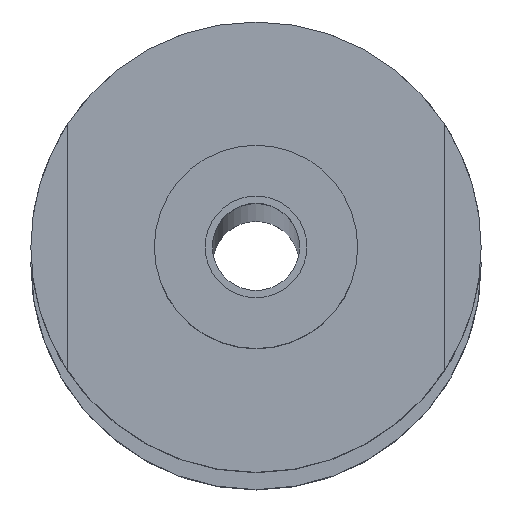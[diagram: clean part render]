
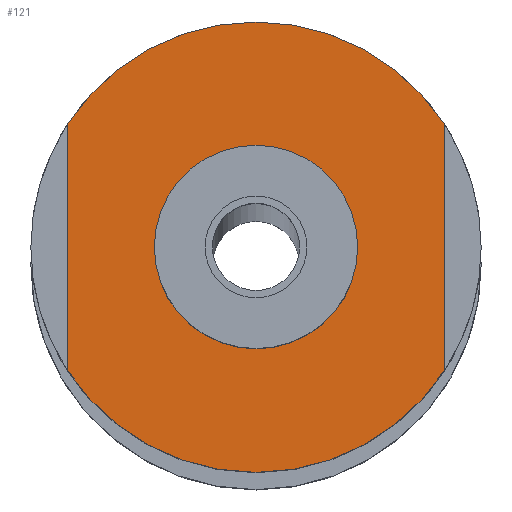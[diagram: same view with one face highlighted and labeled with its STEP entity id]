
A CAD part, top view. The second image highlights one B-rep face of the part: STEP entity #121.
In plain terms, the highlighted planar face has unit normal (0, 0, 1).
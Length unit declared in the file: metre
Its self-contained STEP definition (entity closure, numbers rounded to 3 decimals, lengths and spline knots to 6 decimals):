
#121=ADVANCED_FACE('37:1511',(#238,#239),#240,.T.);
#238=FACE_OUTER_BOUND('',#364,.T.);
#239=FACE_BOUND('',#365,.T.);
#240=PLANE('',#366);
#364=EDGE_LOOP('',(#596,#597,#598,#599,#600,#601));
#365=EDGE_LOOP('',(#602,#603));
#366=AXIS2_PLACEMENT_3D('',#604,#605,#606);
#596=ORIENTED_EDGE('',*,*,#761,.F.);
#597=ORIENTED_EDGE('',*,*,#760,.F.);
#598=ORIENTED_EDGE('',*,*,#756,.F.);
#599=ORIENTED_EDGE('',*,*,#688,.F.);
#600=ORIENTED_EDGE('',*,*,#687,.F.);
#601=ORIENTED_EDGE('',*,*,#751,.T.);
#602=ORIENTED_EDGE('',*,*,#749,.F.);
#603=ORIENTED_EDGE('',*,*,#693,.F.);
#604=CARTESIAN_POINT('',(0.0,0.0,3.055));
#605=DIRECTION('',(0.0,0.0,1.0));
#606=DIRECTION('',(1.0,0.0,0.0));
#687=EDGE_CURVE('37:1561',#812,#814,#815,.F.);
#688=EDGE_CURVE('37:1552',#814,#816,#817,.F.);
#693=EDGE_CURVE('',#822,#825,#826,.T.);
#749=EDGE_CURVE('37:1539',#825,#822,#907,.T.);
#751=EDGE_CURVE('37:3142',#812,#909,#910,.T.);
#756=EDGE_CURVE('37:2641',#816,#917,#918,.F.);
#760=EDGE_CURVE('37:1558',#917,#922,#923,.F.);
#761=EDGE_CURVE('37:1549',#922,#909,#924,.F.);
#812=VERTEX_POINT('',#1001);
#814=VERTEX_POINT('',#1004);
#815=CIRCLE('',#1005,0.0155);
#816=VERTEX_POINT('',#1006);
#817=CIRCLE('',#1007,0.0155);
#822=VERTEX_POINT('',#1013);
#825=VERTEX_POINT('',#1017);
#826=CIRCLE('',#1018,0.007);
#907=CIRCLE('',#1116,0.007);
#909=VERTEX_POINT('',#1118);
#910=LINE('',#1119,#1120);
#917=VERTEX_POINT('',#1130);
#918=LINE('',#1131,#1132);
#922=VERTEX_POINT('',#1137);
#923=CIRCLE('',#1138,0.0155);
#924=CIRCLE('',#1139,0.0155);
#1001=CARTESIAN_POINT('',(-0.013092,0.008536,3.055));
#1004=CARTESIAN_POINT('',(-0.000092,0.015595,3.055));
#1005=AXIS2_PLACEMENT_3D('',#1221,#1222,#1223);
#1006=CARTESIAN_POINT('',(0.012908,0.008536,3.055));
#1007=AXIS2_PLACEMENT_3D('',#1224,#1225,#1226);
#1013=CARTESIAN_POINT('',(0.006908,0.000095,3.055));
#1017=CARTESIAN_POINT('',(-0.007092,0.000095,3.055));
#1018=AXIS2_PLACEMENT_3D('',#1232,#1233,#1234);
#1116=AXIS2_PLACEMENT_3D('',#1318,#1319,#1320);
#1118=CARTESIAN_POINT('',(-0.013092,-0.008346,3.055));
#1119=CARTESIAN_POINT('',(-0.013092,0.000048,3.055));
#1120=VECTOR('',#1321,1.0);
#1130=CARTESIAN_POINT('',(0.012908,-0.008346,3.055));
#1131=CARTESIAN_POINT('',(0.012908,0.000048,3.055));
#1132=VECTOR('',#1325,1.0);
#1137=CARTESIAN_POINT('',(-0.000092,-0.015405,3.055));
#1138=AXIS2_PLACEMENT_3D('',#1330,#1331,#1332);
#1139=AXIS2_PLACEMENT_3D('',#1333,#1334,#1335);
#1221=CARTESIAN_POINT('',(-0.000092,0.000095,3.055));
#1222=DIRECTION('',(0.0,0.0,1.0));
#1223=DIRECTION('',(1.0,0.0,0.0));
#1224=CARTESIAN_POINT('',(-0.000092,0.000095,3.055));
#1225=DIRECTION('',(0.0,0.0,1.0));
#1226=DIRECTION('',(1.0,0.0,0.0));
#1232=CARTESIAN_POINT('',(-0.000092,0.000095,3.055));
#1233=DIRECTION('',(0.0,0.0,1.0));
#1234=DIRECTION('',(1.0,0.0,-0.0));
#1318=CARTESIAN_POINT('',(-0.000092,0.000095,3.055));
#1319=DIRECTION('',(0.0,0.0,1.0));
#1320=DIRECTION('',(1.0,0.0,-0.0));
#1321=DIRECTION('',(0.,-1.0,0.0));
#1325=DIRECTION('',(0.,1.0,0.0));
#1330=CARTESIAN_POINT('',(-0.000092,0.000095,3.055));
#1331=DIRECTION('',(0.0,0.0,1.0));
#1332=DIRECTION('',(1.0,0.0,0.0));
#1333=CARTESIAN_POINT('',(-0.000092,0.000095,3.055));
#1334=DIRECTION('',(0.0,0.0,1.0));
#1335=DIRECTION('',(1.0,0.0,0.0));
